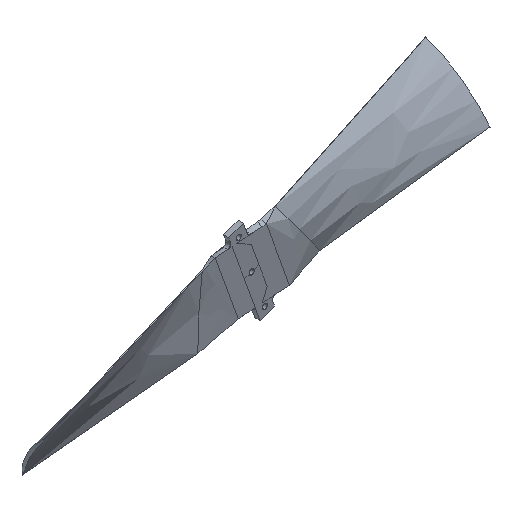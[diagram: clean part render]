
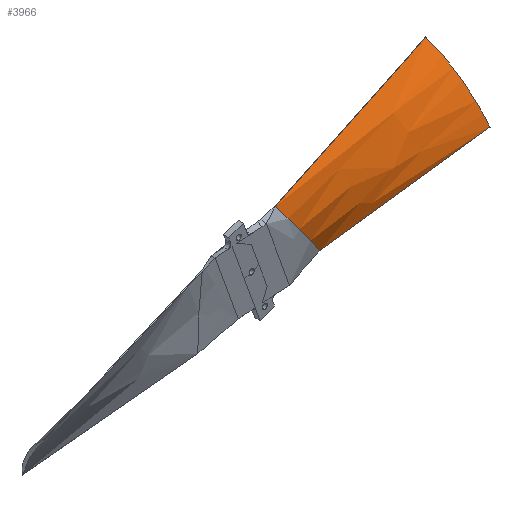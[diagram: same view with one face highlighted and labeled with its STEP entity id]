
A CAD part, isometric view. The second image highlights one B-rep face of the part: STEP entity #3966.
In plain terms, the highlighted free-form (B-spline) face has degree [3, 3] with [9, 4] control points.
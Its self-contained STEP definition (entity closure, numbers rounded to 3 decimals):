
#532=CARTESIAN_POINT('Vertex',(18.917,78.896,16.559)) ;
#1802=CARTESIAN_POINT('Vertex',(43.63,77.86,-17.509)) ;
#1806=CARTESIAN_POINT('Control Point',(43.63,77.86,-17.51)) ;
#1807=CARTESIAN_POINT('Control Point',(39.421,76.03,-12.057)) ;
#1808=CARTESIAN_POINT('Control Point',(30.86,74.083,-0.655)) ;
#1809=CARTESIAN_POINT('Control Point',(22.653,76.421,11.007)) ;
#1810=CARTESIAN_POINT('Control Point',(18.917,78.894,16.56)) ;
#1870=CARTESIAN_POINT('Vertex',(117.688,90.207,46.833)) ;
#1903=CARTESIAN_POINT('Control Point',(117.688,90.207,46.833)) ;
#1904=CARTESIAN_POINT('Control Point',(116.774,90.103,46.554)) ;
#1905=CARTESIAN_POINT('Control Point',(115.86,89.998,46.274)) ;
#1906=CARTESIAN_POINT('Control Point',(114.946,89.893,45.993)) ;
#1907=CARTESIAN_POINT('Control Point',(111.976,89.553,45.083)) ;
#1908=CARTESIAN_POINT('Control Point',(109.006,89.213,44.172)) ;
#1909=CARTESIAN_POINT('Control Point',(106.95,88.977,43.541)) ;
#1910=CARTESIAN_POINT('Control Point',(101.924,88.401,42.)) ;
#1911=CARTESIAN_POINT('Control Point',(96.898,87.825,40.459)) ;
#1912=CARTESIAN_POINT('Control Point',(93.928,87.485,39.548)) ;
#1913=CARTESIAN_POINT('Control Point',(85.019,86.464,36.816)) ;
#1914=CARTESIAN_POINT('Control Point',(76.109,85.443,34.084)) ;
#1915=CARTESIAN_POINT('Control Point',(70.169,84.763,32.263)) ;
#1916=CARTESIAN_POINT('Control Point',(59.485,83.539,28.987)) ;
#1917=CARTESIAN_POINT('Control Point',(48.802,82.315,25.711)) ;
#1918=CARTESIAN_POINT('Control Point',(44.059,81.771,24.257)) ;
#1919=CARTESIAN_POINT('Control Point',(38.013,81.078,22.402)) ;
#1920=CARTESIAN_POINT('Control Point',(31.967,80.385,20.548)) ;
#1921=CARTESIAN_POINT('Control Point',(30.326,80.197,20.044)) ;
#1922=CARTESIAN_POINT('Control Point',(27.62,79.886,19.214)) ;
#1923=CARTESIAN_POINT('Control Point',(24.924,79.578,18.387)) ;
#1924=CARTESIAN_POINT('Control Point',(24.048,79.478,18.118)) ;
#1925=CARTESIAN_POINT('Control Point',(22.8,79.334,17.733)) ;
#1926=CARTESIAN_POINT('Control Point',(21.656,79.205,17.387)) ;
#1927=CARTESIAN_POINT('Control Point',(21.286,79.164,17.276)) ;
#1928=CARTESIAN_POINT('Control Point',(20.571,79.084,17.063)) ;
#1929=CARTESIAN_POINT('Control Point',(19.896,79.008,16.86)) ;
#1930=CARTESIAN_POINT('Control Point',(19.568,78.971,16.761)) ;
#1931=CARTESIAN_POINT('Control Point',(19.241,78.934,16.663)) ;
#1932=CARTESIAN_POINT('Control Point',(18.915,78.897,16.564)) ;
#3898=CARTESIAN_POINT('Control Point',(32.176,79.879,-21.445)) ;
#3899=CARTESIAN_POINT('Control Point',(66.118,74.37,-11.042)) ;
#3900=CARTESIAN_POINT('Control Point',(100.061,68.861,-0.638)) ;
#3901=CARTESIAN_POINT('Control Point',(134.004,63.351,9.765)) ;
#3902=CARTESIAN_POINT('Control Point',(32.137,79.818,-21.319)) ;
#3903=CARTESIAN_POINT('Control Point',(66.073,74.351,-10.909)) ;
#3904=CARTESIAN_POINT('Control Point',(100.009,68.883,-0.498)) ;
#3905=CARTESIAN_POINT('Control Point',(133.944,63.416,9.912)) ;
#3906=CARTESIAN_POINT('Control Point',(31.186,78.324,-18.21)) ;
#3907=CARTESIAN_POINT('Control Point',(64.95,73.884,-7.634)) ;
#3908=CARTESIAN_POINT('Control Point',(98.715,69.444,2.943)) ;
#3909=CARTESIAN_POINT('Control Point',(132.479,65.005,13.519)) ;
#3910=CARTESIAN_POINT('Control Point',(29.155,76.076,-11.859)) ;
#3911=CARTESIAN_POINT('Control Point',(62.645,73.555,-1.099)) ;
#3912=CARTESIAN_POINT('Control Point',(96.136,71.035,9.66)) ;
#3913=CARTESIAN_POINT('Control Point',(129.626,68.514,20.419)) ;
#3914=CARTESIAN_POINT('Control Point',(25.825,74.821,-2.182)) ;
#3915=CARTESIAN_POINT('Control Point',(59.058,74.789,8.539)) ;
#3916=CARTESIAN_POINT('Control Point',(92.292,74.758,19.26)) ;
#3917=CARTESIAN_POINT('Control Point',(125.525,74.726,29.981)) ;
#3918=CARTESIAN_POINT('Control Point',(22.286,75.657,7.443)) ;
#3919=CARTESIAN_POINT('Control Point',(55.376,77.751,17.919)) ;
#3920=CARTESIAN_POINT('Control Point',(88.466,79.846,28.395)) ;
#3921=CARTESIAN_POINT('Control Point',(121.556,81.94,38.872)) ;
#3922=CARTESIAN_POINT('Control Point',(19.835,77.622,13.688)) ;
#3923=CARTESIAN_POINT('Control Point',(52.88,80.908,23.928)) ;
#3924=CARTESIAN_POINT('Control Point',(85.925,84.194,34.168)) ;
#3925=CARTESIAN_POINT('Control Point',(118.97,87.479,44.409)) ;
#3926=CARTESIAN_POINT('Control Point',(18.6,78.973,16.725)) ;
#3927=CARTESIAN_POINT('Control Point',(51.629,82.802,26.844)) ;
#3928=CARTESIAN_POINT('Control Point',(84.659,86.631,36.963)) ;
#3929=CARTESIAN_POINT('Control Point',(117.688,90.46,47.082)) ;
#3930=CARTESIAN_POINT('Control Point',(18.55,79.028,16.847)) ;
#3931=CARTESIAN_POINT('Control Point',(51.579,82.879,26.961)) ;
#3932=CARTESIAN_POINT('Control Point',(84.608,86.729,37.075)) ;
#3933=CARTESIAN_POINT('Control Point',(117.636,90.58,47.189)) ;
#3935=CARTESIAN_POINT('Control Point',(123.731,74.989,29.431)) ;
#3936=CARTESIAN_POINT('Control Point',(125.124,71.678,24.604)) ;
#3937=CARTESIAN_POINT('Control Point',(126.447,68.762,19.51)) ;
#3938=CARTESIAN_POINT('Control Point',(127.735,66.295,14.199)) ;
#3939=CARTESIAN_POINT('Control Point',(129.021,64.308,8.729)) ;
#3940=CARTESIAN_POINT('Vertex',(123.731,74.989,29.431)) ;
#3942=CARTESIAN_POINT('Vertex',(129.021,64.308,8.728)) ;
#3946=CARTESIAN_POINT('Control Point',(117.688,90.207,46.833)) ;
#3947=CARTESIAN_POINT('Control Point',(119.909,84.512,41.653)) ;
#3948=CARTESIAN_POINT('Control Point',(121.89,79.363,35.806)) ;
#3949=CARTESIAN_POINT('Control Point',(123.731,74.989,29.431)) ;
#3952=CARTESIAN_POINT('Control Point',(129.021,64.308,8.729)) ;
#3953=CARTESIAN_POINT('Control Point',(111.943,67.018,3.479)) ;
#3954=CARTESIAN_POINT('Control Point',(94.863,69.729,-1.762)) ;
#3955=CARTESIAN_POINT('Control Point',(77.788,72.441,-7.02)) ;
#3956=CARTESIAN_POINT('Control Point',(60.707,75.149,-12.258)) ;
#3957=CARTESIAN_POINT('Control Point',(43.631,77.861,-17.51)) ;
#3960=ORIENTED_EDGE('',*,*,#3944,.F.) ;
#3961=ORIENTED_EDGE('',*,*,#3950,.F.) ;
#3962=ORIENTED_EDGE('',*,*,#1933,.T.) ;
#3963=ORIENTED_EDGE('',*,*,#1811,.F.) ;
#3964=ORIENTED_EDGE('',*,*,#3958,.F.) ;
#3966=ADVANCED_FACE('MANIFOLD_SOLID_BREP #168',(#3965),#3897,.F.) ;
#1805=B_SPLINE_CURVE_WITH_KNOTS('',3,(#1806,#1807,#1808,#1809,#1810),.UNSPECIFIED.,.F.,.U.,(4,1,4),(0.406,20.67,40.93),.UNSPECIFIED.) ;
#1902=B_SPLINE_CURVE_WITH_KNOTS('',5,(#1903,#1904,#1905,#1906,#1907,#1908,#1909,#1910,#1911,#1912,#1913,#1914,#1915,#1916,#1917,#1918,#1919,#1920,#1921,#1922,#1923,#1924,#1925,#1926,#1927,#1928,#1929,#1930,#1931,#1932),.UNSPECIFIED.,.F.,.U.,(6,3,3,3,3,3,3,3,3,6),(0.,6.801,22.097,44.195,88.389,123.681,133.376,138.223,140.647,143.07),.UNSPECIFIED.) ;
#3934=B_SPLINE_CURVE_WITH_KNOTS('',4,(#3935,#3936,#3937,#3938,#3939),.UNSPECIFIED.,.F.,.U.,(5,5),(0.,32.743),.UNSPECIFIED.) ;
#3945=B_SPLINE_CURVE_WITH_KNOTS('',3,(#3946,#3947,#3948,#3949),.UNSPECIFIED.,.F.,.U.,(4,4),(0.,32.436),.UNSPECIFIED.) ;
#3951=B_SPLINE_CURVE_WITH_KNOTS('',5,(#3952,#3953,#3954,#3955,#3956,#3957),.UNSPECIFIED.,.F.,.U.,(6,6),(0.,126.535),.UNSPECIFIED.) ;
#3897=B_SPLINE_SURFACE_WITH_KNOTS('',3,3,((#3898,#3899,#3900,#3901),(#3902,#3903,#3904,#3905),(#3906,#3907,#3908,#3909),(#3910,#3911,#3912,#3913),(#3914,#3915,#3916,#3917),(#3918,#3919,#3920,#3921),(#3922,#3923,#3924,#3925),(#3926,#3927,#3928,#3929),(#3930,#3931,#3932,#3933)),.UNSPECIFIED.,.F.,.F.,.U.,(4,1,1,1,1,1,4),(4,4),(0.,0.464,11.413,22.361,33.31,44.258,44.718),(0.,105.574),.UNSPECIFIED.) ;
#1811=EDGE_CURVE('',#1803,#533,#1805,.T.) ;
#1933=EDGE_CURVE('',#1871,#533,#1902,.T.) ;
#3944=EDGE_CURVE('',#3941,#3943,#3934,.T.) ;
#3950=EDGE_CURVE('',#1871,#3941,#3945,.T.) ;
#3958=EDGE_CURVE('',#3943,#1803,#3951,.T.) ;
#3959=EDGE_LOOP('',(#3960,#3961,#3962,#3963,#3964)) ;
#3965=FACE_OUTER_BOUND('',#3959,.T.) ;
#533=VERTEX_POINT('',#532) ;
#1803=VERTEX_POINT('',#1802) ;
#1871=VERTEX_POINT('',#1870) ;
#3941=VERTEX_POINT('',#3940) ;
#3943=VERTEX_POINT('',#3942) ;
